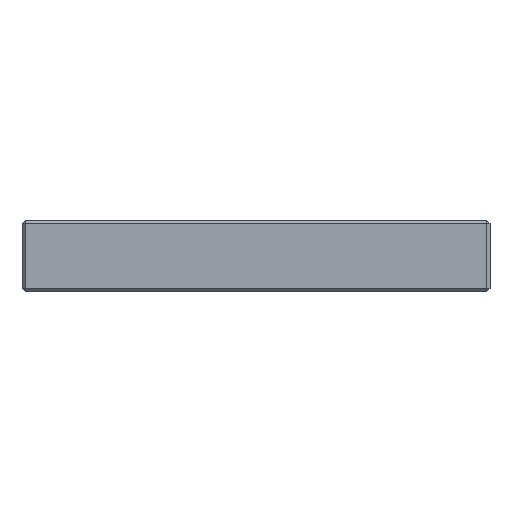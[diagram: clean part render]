
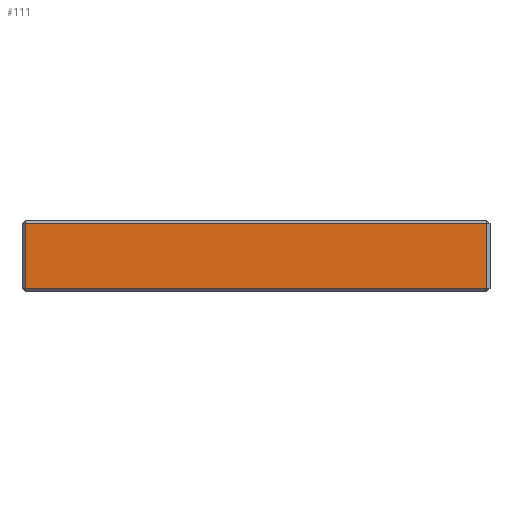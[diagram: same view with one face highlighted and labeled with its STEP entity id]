
A CAD part, front view. The second image highlights one B-rep face of the part: STEP entity #111.
In plain terms, the highlighted planar face has unit normal (0, -1, 0).
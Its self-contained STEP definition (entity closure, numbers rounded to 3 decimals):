
#111=ADVANCED_FACE('',(#325),#326,.F.);
#325=FACE_OUTER_BOUND('',#630,.T.);
#326=PLANE('',#631);
#630=EDGE_LOOP('',(#1275,#1276,#1277,#1278));
#631=AXIS2_PLACEMENT_3D('',#1279,#1280,#1281);
#1275=ORIENTED_EDGE('',*,*,#2041,.F.);
#1276=ORIENTED_EDGE('',*,*,#2067,.F.);
#1277=ORIENTED_EDGE('',*,*,#2062,.F.);
#1278=ORIENTED_EDGE('',*,*,#2043,.F.);
#1279=CARTESIAN_POINT('',(19.15,0.0,-2.925));
#1280=DIRECTION('',(0.0,1.0,0.0));
#1281=DIRECTION('',(0.0,0.0,1.0));
#2041=EDGE_CURVE('',#2513,#2541,#2545,.T.);
#2043=EDGE_CURVE('',#2541,#2525,#2547,.T.);
#2062=EDGE_CURVE('',#2525,#2507,#2572,.T.);
#2067=EDGE_CURVE('',#2507,#2513,#2577,.T.);
#2507=VERTEX_POINT('',#3135);
#2513=VERTEX_POINT('',#3144);
#2525=VERTEX_POINT('',#3162);
#2541=VERTEX_POINT('',#3187);
#2545=LINE('',#3194,#3195);
#2547=LINE('',#3198,#3199);
#2572=LINE('',#3242,#3243);
#2577=LINE('',#3252,#3253);
#3135=CARTESIAN_POINT('',(0.25,0.0,-0.25));
#3144=CARTESIAN_POINT('',(38.05,0.0,-0.25));
#3162=CARTESIAN_POINT('',(0.25,0.0,-5.6));
#3187=CARTESIAN_POINT('',(38.05,0.0,-5.6));
#3194=CARTESIAN_POINT('',(38.05,0.0,-2.925));
#3195=VECTOR('',#3803,1.0);
#3198=CARTESIAN_POINT('',(19.15,0.0,-5.6));
#3199=VECTOR('',#3805,1.0);
#3242=CARTESIAN_POINT('',(0.25,0.0,-2.925));
#3243=VECTOR('',#3824,1.0);
#3252=CARTESIAN_POINT('',(19.15,0.0,-0.25));
#3253=VECTOR('',#3829,1.0);
#3803=DIRECTION('',(0.0,0.0,-1.0));
#3805=DIRECTION('',(-1.0,0.0,0.0));
#3824=DIRECTION('',(-0.0,-0.0,1.0));
#3829=DIRECTION('',(1.0,0.0,0.0));
